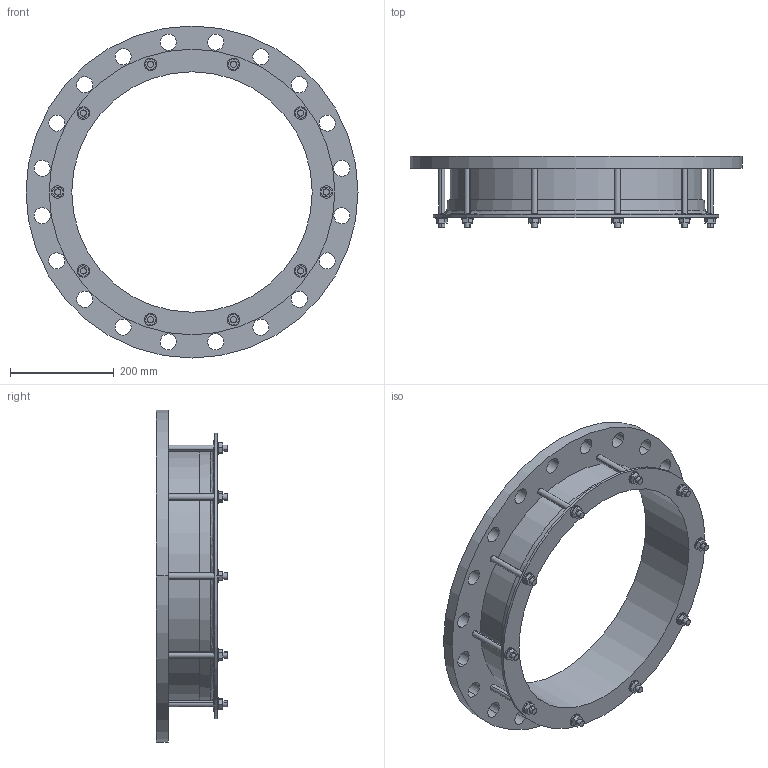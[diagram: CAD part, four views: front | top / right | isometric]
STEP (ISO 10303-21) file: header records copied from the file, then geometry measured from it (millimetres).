
FILE_DESCRIPTION((''),'2;1');
FILE_NAME('460X450PN16_5NOT','2019-01-16T',('mfairey'),('Glynwed Pipe Systems'),'CREO PARAMETRIC BY PTC INC, 2016130','CREO PARAMETRIC BY PTC INC, 2016130','');
FILE_SCHEMA(('CONFIG_CONTROL_DESIGN'));
Length unit declared in the file: millimetre
Products named in the file (1): 460X450PN16_5NOT
Bounding box: 640 x 137.45 x 640 mm (x, y, z)
Volume: 5459837.6 mm3; surface area: 821652 mm2
Topology: 1 solids, 1 shells, 208 faces, 548 edges, 364 vertices
Faces by surface type: cylinder 108, plane 94, cone 4, torus 2
Entity records: 7170 total; most frequent: CARTESIAN_POINT 1724, DIRECTION 1132, ORIENTED_EDGE 1096, EDGE_CURVE 548, AXIS2_PLACEMENT_3D 420, VERTEX_POINT 364, VECTOR 292, LINE 292
